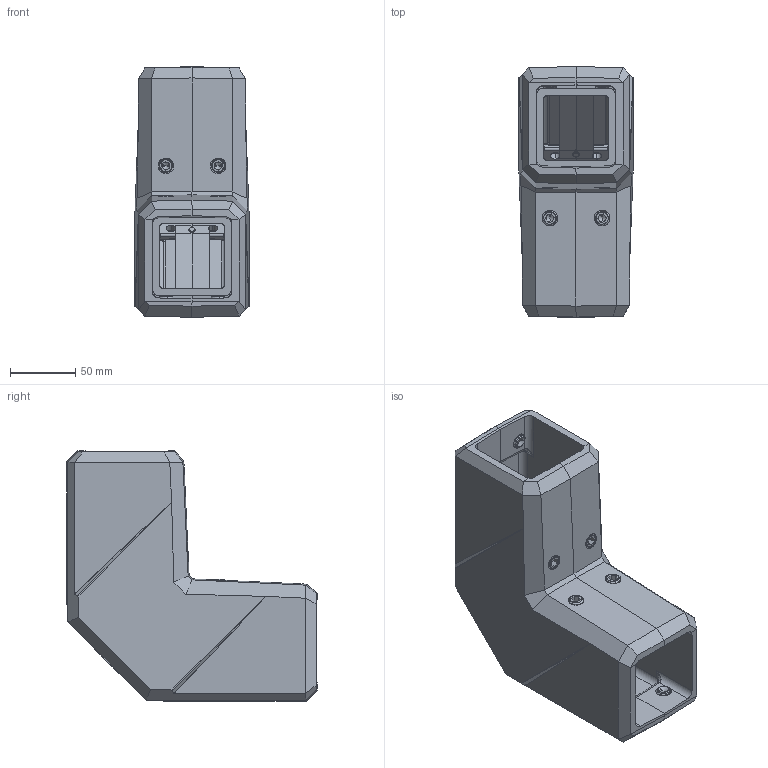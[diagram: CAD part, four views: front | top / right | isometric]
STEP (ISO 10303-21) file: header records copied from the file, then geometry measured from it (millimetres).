
FILE_DESCRIPTION((''),'2;1');
FILE_NAME('1016710000_ASM','2025-09-08T11:02:52',('silke.otte'),(''),'CREO PARAMETRIC BY PTC INC, 2022124','CREO PARAMETRIC BY PTC INC, 2022124','');
FILE_SCHEMA(('AUTOMOTIVE_DESIGN { 1 0 10303 214 1 1 1 1 }'));
Length unit declared in the file: millimetre
Products named in the file (9): 9324264000_AF0; 9620227000_ASM; 9263034000; 9324042000; 9231550000; 9805173000_ASM; 9261331000; 9231015000; 1016710000_ASM
Assembly tree (21 placements, depth 3):
  1016710000_ASM
    9620227000_ASM
      9324264000_AF0
    9263034000  x12
    9805173000_ASM
      9324042000
      9231550000
    9261331000  x2
    9231015000  x2
Bounding box: 88 x 191.89 x 191.89 mm (x, y, z)
Volume: 861464.3 mm3; surface area: 225612.3 mm2
Topology: 19 solids, 49 shells, 1126 faces, 2743 edges, 1639 vertices
Faces by surface type: plane 592, cylinder 334, cone 100, bspline 82, torus 14, sphere 4
Entity records: 39279 total; most frequent: CARTESIAN_POINT 11688, ORIENTED_EDGE 3716, DIRECTION 3522, EDGE_CURVE 1896, PRESENTATION_STYLE_ASSIGNMENT 1887, STYLED_ITEM 1887, CURVE_STYLE 1879, VECTOR 1317
